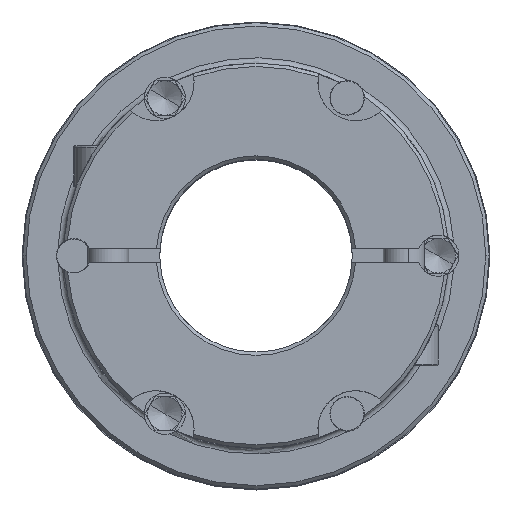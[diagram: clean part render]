
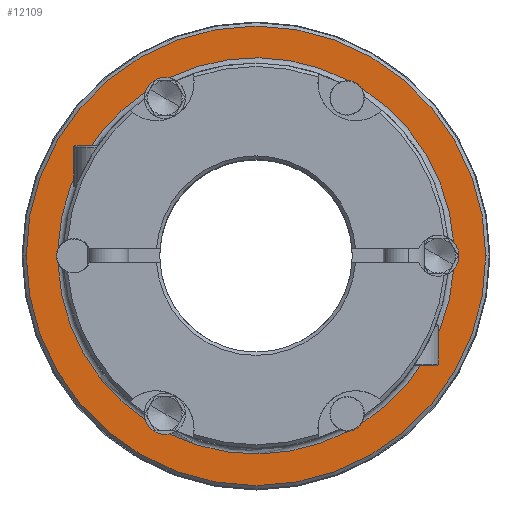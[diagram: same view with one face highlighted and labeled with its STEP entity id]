
A CAD part, top view. The second image highlights one B-rep face of the part: STEP entity #12109.
In plain terms, the highlighted planar face has unit normal (0, 0, 1).
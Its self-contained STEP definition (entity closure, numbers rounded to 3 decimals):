
#146 = CIRCLE ( 'NONE', #8363, 28.8 ) ;
#259 = DIRECTION ( 'NONE',  ( 1., 0., 0. ) ) ;
#340 = DIRECTION ( 'NONE',  ( 1., 0., 0. ) ) ;
#578 = DIRECTION ( 'NONE',  ( 0., 0., -1. ) ) ;
#655 = AXIS2_PLACEMENT_3D ( 'NONE', #9227, #11517, #259 ) ;
#769 = VERTEX_POINT ( 'NONE', #13472 ) ;
#1002 = CARTESIAN_POINT ( 'NONE',  ( -33.4, 0., 10.95 ) ) ;
#1262 = ORIENTED_EDGE ( 'NONE', *, *, #10502, .T. ) ;
#1291 = CARTESIAN_POINT ( 'NONE',  ( 0., 0., 10.95 ) ) ;
#1358 = CIRCLE ( 'NONE', #15444, 28.8 ) ;
#1445 = DIRECTION ( 'NONE',  ( 1., 0., 0. ) ) ;
#1567 = CARTESIAN_POINT ( 'NONE',  ( 13.404, -25.49, 10.95 ) ) ;
#1802 = VERTEX_POINT ( 'NONE', #6669 ) ;
#2565 = VERTEX_POINT ( 'NONE', #13988 ) ;
#2815 = EDGE_LOOP ( 'NONE', ( #21743, #3766, #21123, #23325, #6066, #19416, #22866, #12793, #7027, #20647, #9700, #7029, #19229 ) ) ;
#2966 = AXIS2_PLACEMENT_3D ( 'NONE', #14368, #21836, #10945 ) ;
#3154 = DIRECTION ( 'NONE',  ( 0., 0., -1. ) ) ;
#3235 = DIRECTION ( 'NONE',  ( 0., 0., -1. ) ) ;
#3247 = CIRCLE ( 'NONE', #8334, 33.4 ) ;
#3273 = VERTEX_POINT ( 'NONE', #8890 ) ;
#3594 = DIRECTION ( 'NONE',  ( 1., 0., 0. ) ) ;
#3720 = DIRECTION ( 'NONE',  ( 0., 0., -1. ) ) ;
#3766 = ORIENTED_EDGE ( 'NONE', *, *, #13275, .T. ) ;
#3767 = CARTESIAN_POINT ( 'NONE',  ( 26.5, 0., 10.95 ) ) ;
#3896 = CIRCLE ( 'NONE', #19905, 28.8 ) ;
#4483 = AXIS2_PLACEMENT_3D ( 'NONE', #21820, #16424, #9208 ) ;
#4584 = AXIS2_PLACEMENT_3D ( 'NONE', #20000, #3235, #10599 ) ;
#4617 = DIRECTION ( 'NONE',  ( 0., 0., -1. ) ) ;
#5212 = CARTESIAN_POINT ( 'NONE',  ( -13.25, 22.95, 10.95 ) ) ;
#5220 = DIRECTION ( 'NONE',  ( 0., 0., -1. ) ) ;
#5254 = CIRCLE ( 'NONE', #18905, 2.546 ) ;
#5330 = CARTESIAN_POINT ( 'NONE',  ( 13.25, -22.95, 10.95 ) ) ;
#5389 = VERTEX_POINT ( 'NONE', #1002 ) ;
#5686 = CIRCLE ( 'NONE', #9210, 3. ) ;
#6066 = ORIENTED_EDGE ( 'NONE', *, *, #20677, .T. ) ;
#6355 = DIRECTION ( 'NONE',  ( 0., 0., 1. ) ) ;
#6504 = VERTEX_POINT ( 'NONE', #18157 ) ;
#6669 = CARTESIAN_POINT ( 'NONE',  ( 28.73, -2.007, 10.95 ) ) ;
#6899 = FACE_BOUND ( 'NONE', #2815, .T. ) ;
#7027 = ORIENTED_EDGE ( 'NONE', *, *, #10133, .T. ) ;
#7029 = ORIENTED_EDGE ( 'NONE', *, *, #20905, .T. ) ;
#7090 = CARTESIAN_POINT ( 'NONE',  ( -13.25, -22.95, 10.95 ) ) ;
#7119 = CARTESIAN_POINT ( 'NONE',  ( -16.103, 23.878, 10.95 ) ) ;
#7274 = CIRCLE ( 'NONE', #2966, 2.546 ) ;
#7302 = DIRECTION ( 'NONE',  ( 0., 0., -1. ) ) ;
#7387 = DIRECTION ( 'NONE',  ( 0., 0., 1. ) ) ;
#7424 = EDGE_CURVE ( 'NONE', #3273, #769, #3896, .T. ) ;
#7966 = CIRCLE ( 'NONE', #18114, 28.8 ) ;
#8219 = CARTESIAN_POINT ( 'NONE',  ( 0., 0., 10.95 ) ) ;
#8334 = AXIS2_PLACEMENT_3D ( 'NONE', #8219, #6355, #21288 ) ;
#8363 = AXIS2_PLACEMENT_3D ( 'NONE', #1291, #7302, #14774 ) ;
#8861 = EDGE_CURVE ( 'NONE', #9323, #9380, #19683, .T. ) ;
#8890 = CARTESIAN_POINT ( 'NONE',  ( 15.373, 24.354, 10.95 ) ) ;
#9018 = VERTEX_POINT ( 'NONE', #17275 ) ;
#9208 = DIRECTION ( 'NONE',  ( 1., 0., 0. ) ) ;
#9210 = AXIS2_PLACEMENT_3D ( 'NONE', #21234, #4617, #15623 ) ;
#9227 = CARTESIAN_POINT ( 'NONE',  ( 0., 0., 10.95 ) ) ;
#9317 = EDGE_CURVE ( 'NONE', #2565, #9323, #13453, .T. ) ;
#9323 = VERTEX_POINT ( 'NONE', #7119 ) ;
#9380 = VERTEX_POINT ( 'NONE', #17022 ) ;
#9392 = DIRECTION ( 'NONE',  ( 1., 0., 0. ) ) ;
#9524 = AXIS2_PLACEMENT_3D ( 'NONE', #5212, #24174, #14979 ) ;
#9700 = ORIENTED_EDGE ( 'NONE', *, *, #7424, .T. ) ;
#9903 = AXIS2_PLACEMENT_3D ( 'NONE', #5330, #3720, #3594 ) ;
#9964 = EDGE_CURVE ( 'NONE', #20597, #11039, #146, .T. ) ;
#10133 = EDGE_CURVE ( 'NONE', #9380, #9018, #7966, .T. ) ;
#10255 = CARTESIAN_POINT ( 'NONE',  ( -28.778, -1.137, 10.95 ) ) ;
#10502 = EDGE_CURVE ( 'NONE', #6504, #5389, #23634, .T. ) ;
#10599 = DIRECTION ( 'NONE',  ( 1., 0., 0. ) ) ;
#10945 = DIRECTION ( 'NONE',  ( 1., 0., 0. ) ) ;
#11039 = VERTEX_POINT ( 'NONE', #18728 ) ;
#11517 = DIRECTION ( 'NONE',  ( 0., 0., 1. ) ) ;
#11543 = DIRECTION ( 'NONE',  ( 1., 0., 0. ) ) ;
#11872 = CIRCLE ( 'NONE', #9903, 2.546 ) ;
#12090 = CARTESIAN_POINT ( 'NONE',  ( -16.103, -23.878, 10.95 ) ) ;
#12109 = ADVANCED_FACE ( 'NONE', ( #18289, #6899 ), #20242, .T. ) ;
#12264 = VERTEX_POINT ( 'NONE', #13584 ) ;
#12419 = CIRCLE ( 'NONE', #4584, 28.8 ) ;
#12735 = DIRECTION ( 'NONE',  ( 0., 0., -1. ) ) ;
#12793 = ORIENTED_EDGE ( 'NONE', *, *, #8861, .T. ) ;
#13074 = AXIS2_PLACEMENT_3D ( 'NONE', #13137, #7387, #11543 ) ;
#13108 = AXIS2_PLACEMENT_3D ( 'NONE', #3767, #578, #340 ) ;
#13137 = CARTESIAN_POINT ( 'NONE',  ( 0., 0., 10.95 ) ) ;
#13275 = EDGE_CURVE ( 'NONE', #21682, #20597, #11872, .T. ) ;
#13453 = CIRCLE ( 'NONE', #4483, 28.8 ) ;
#13472 = CARTESIAN_POINT ( 'NONE',  ( 28.73, 2.007, 10.95 ) ) ;
#13584 = CARTESIAN_POINT ( 'NONE',  ( 29.5, 0., 10.95 ) ) ;
#13988 = CARTESIAN_POINT ( 'NONE',  ( -28.778, 1.137, 10.95 ) ) ;
#14368 = CARTESIAN_POINT ( 'NONE',  ( -26.5, 0., 10.95 ) ) ;
#14427 = CARTESIAN_POINT ( 'NONE',  ( 0., 0., 10.95 ) ) ;
#14774 = DIRECTION ( 'NONE',  ( 1., 0., 0. ) ) ;
#14798 = CIRCLE ( 'NONE', #19477, 3. ) ;
#14979 = DIRECTION ( 'NONE',  ( 1., 0., 0. ) ) ;
#15444 = AXIS2_PLACEMENT_3D ( 'NONE', #14427, #3154, #1445 ) ;
#15623 = DIRECTION ( 'NONE',  ( 1., 0., 0. ) ) ;
#16424 = DIRECTION ( 'NONE',  ( 0., 0., -1. ) ) ;
#16953 = ORIENTED_EDGE ( 'NONE', *, *, #18964, .T. ) ;
#17022 = CARTESIAN_POINT ( 'NONE',  ( -12.627, 25.884, 10.95 ) ) ;
#17214 = EDGE_CURVE ( 'NONE', #11039, #23244, #14798, .T. ) ;
#17275 = CARTESIAN_POINT ( 'NONE',  ( 13.404, 25.49, 10.95 ) ) ;
#17552 = DIRECTION ( 'NONE',  ( 1., 0., 0. ) ) ;
#17574 = EDGE_CURVE ( 'NONE', #1802, #21682, #12419, .T. ) ;
#17930 = DIRECTION ( 'NONE',  ( 0., 0., -1. ) ) ;
#18037 = EDGE_LOOP ( 'NONE', ( #16953, #1262 ) ) ;
#18114 = AXIS2_PLACEMENT_3D ( 'NONE', #20397, #20522, #9392 ) ;
#18157 = CARTESIAN_POINT ( 'NONE',  ( 33.4, 0., 10.95 ) ) ;
#18289 = FACE_OUTER_BOUND ( 'NONE', #18037, .T. ) ;
#18728 = CARTESIAN_POINT ( 'NONE',  ( -12.627, -25.884, 10.95 ) ) ;
#18905 = AXIS2_PLACEMENT_3D ( 'NONE', #21860, #5220, #20579 ) ;
#18964 = EDGE_CURVE ( 'NONE', #5389, #6504, #3247, .T. ) ;
#19229 = ORIENTED_EDGE ( 'NONE', *, *, #20721, .T. ) ;
#19233 = VERTEX_POINT ( 'NONE', #10255 ) ;
#19416 = ORIENTED_EDGE ( 'NONE', *, *, #21302, .T. ) ;
#19477 = AXIS2_PLACEMENT_3D ( 'NONE', #7090, #12735, #20188 ) ;
#19683 = CIRCLE ( 'NONE', #9524, 3. ) ;
#19794 = EDGE_CURVE ( 'NONE', #9018, #3273, #5254, .T. ) ;
#19905 = AXIS2_PLACEMENT_3D ( 'NONE', #23190, #17930, #17552 ) ;
#20000 = CARTESIAN_POINT ( 'NONE',  ( 0., 0., 10.95 ) ) ;
#20188 = DIRECTION ( 'NONE',  ( 1., 0., 0. ) ) ;
#20242 = PLANE ( 'NONE',  #655 ) ;
#20397 = CARTESIAN_POINT ( 'NONE',  ( 0., 0., 10.95 ) ) ;
#20522 = DIRECTION ( 'NONE',  ( 0., 0., -1. ) ) ;
#20579 = DIRECTION ( 'NONE',  ( 1., 0., 0. ) ) ;
#20597 = VERTEX_POINT ( 'NONE', #1567 ) ;
#20647 = ORIENTED_EDGE ( 'NONE', *, *, #19794, .T. ) ;
#20677 = EDGE_CURVE ( 'NONE', #23244, #19233, #1358, .T. ) ;
#20721 = EDGE_CURVE ( 'NONE', #12264, #1802, #22113, .T. ) ;
#20905 = EDGE_CURVE ( 'NONE', #769, #12264, #5686, .T. ) ;
#21123 = ORIENTED_EDGE ( 'NONE', *, *, #9964, .T. ) ;
#21234 = CARTESIAN_POINT ( 'NONE',  ( 26.5, 0., 10.95 ) ) ;
#21288 = DIRECTION ( 'NONE',  ( 1., 0., 0. ) ) ;
#21302 = EDGE_CURVE ( 'NONE', #19233, #2565, #7274, .T. ) ;
#21682 = VERTEX_POINT ( 'NONE', #23233 ) ;
#21743 = ORIENTED_EDGE ( 'NONE', *, *, #17574, .T. ) ;
#21820 = CARTESIAN_POINT ( 'NONE',  ( 0., 0., 10.95 ) ) ;
#21836 = DIRECTION ( 'NONE',  ( 0., 0., -1. ) ) ;
#21860 = CARTESIAN_POINT ( 'NONE',  ( 13.25, 22.95, 10.95 ) ) ;
#22113 = CIRCLE ( 'NONE', #13108, 3. ) ;
#22866 = ORIENTED_EDGE ( 'NONE', *, *, #9317, .T. ) ;
#23190 = CARTESIAN_POINT ( 'NONE',  ( 0., 0., 10.95 ) ) ;
#23233 = CARTESIAN_POINT ( 'NONE',  ( 15.373, -24.354, 10.95 ) ) ;
#23244 = VERTEX_POINT ( 'NONE', #12090 ) ;
#23325 = ORIENTED_EDGE ( 'NONE', *, *, #17214, .T. ) ;
#23634 = CIRCLE ( 'NONE', #13074, 33.4 ) ;
#24174 = DIRECTION ( 'NONE',  ( 0., 0., -1. ) ) ;
